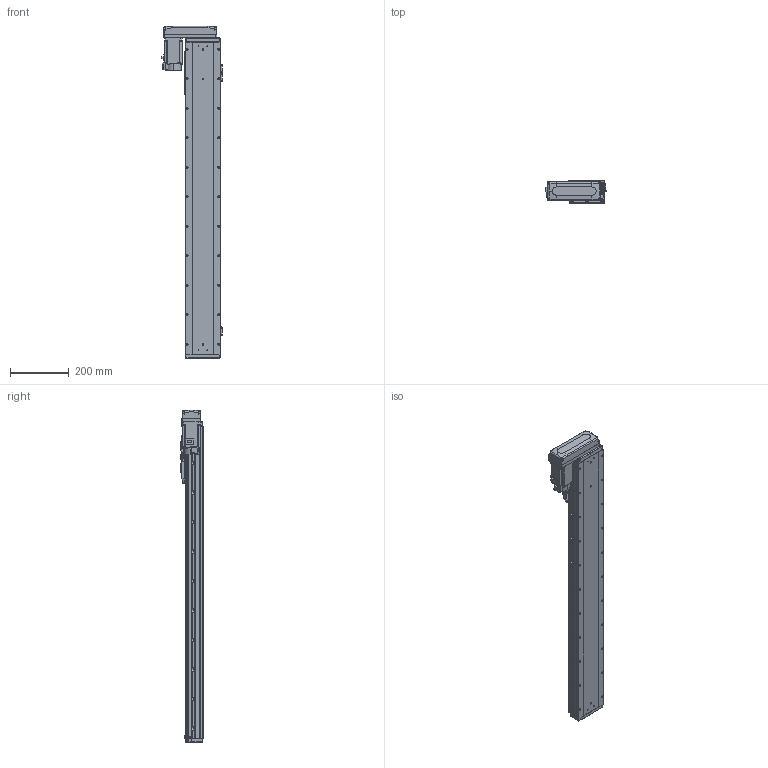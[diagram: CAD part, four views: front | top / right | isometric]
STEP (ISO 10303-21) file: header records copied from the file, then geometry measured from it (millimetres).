
FILE_DESCRIPTION (( 'STEP AP203' ), '1' );
FILE_NAME ('GTH12-850-BR-M40-C4.step', '2023-07-05T00:07:22', ( '微软用户' ), ( '微软中国' ), 'SwSTEP 2.0', 'SolidWorks 2020', '' );
FILE_SCHEMA (( 'CONFIG_CONTROL_DESIGN' ));
Length unit declared in the file: millimetre
Products named in the file (18): GTH120-001_850; GBT 70.3-M3℅8; hg-kn43j_-s100_; GTH120-003; GTH80-022; CTHA86-033_M40B; GTH120-006; GTH80-028; GTH120-027-1_GTH120-027-2; GTH120-004; GTH50-023; GTH12-850-BR-M40-C4; GTH120-013; GTH50-024; GBT 70.1-M3℅6; GBT96.1-2002 3×0.8; GBT 70.1-M5×16; BTH-M3X5X6
Assembly tree (59 placements, depth 2):
  GTH12-850-BR-M40-C4
    GTH120-001_850
    GTH120-003
    GTH120-006
    GTH120-004
    GTH120-013
    GBT 70.1-M3℅6  x14
    GBT 70.1-M5×16  x10
    GBT 70.3-M3℅8  x4
    GTH80-022
    GTH80-028  x2
    GTH50-023  x3
    GTH50-024  x3
    GBT96.1-2002 3×0.8  x6
    BTH-M3X5X6  x8
    hg-kn43j_-s100_
    CTHA86-033_M40B
    GTH120-027-1_GTH120-027-2
Bounding box: 203.5 x 76 x 1125.5 mm (x, y, z)
Volume: 8191078.1 mm3; surface area: 722602.8 mm2
Topology: 61 solids, 61 shells, 2497 faces, 5838 edges, 3583 vertices
Faces by surface type: plane 1278, cylinder 731, cone 300, torus 174, sphere 8, bspline 6
Entity records: 47248 total; most frequent: CARTESIAN_POINT 8004, DIRECTION 7842, ORIENTED_EDGE 7286, EDGE_CURVE 3643, AXIS2_PLACEMENT_3D 2742, LINE 2358, VECTOR 2358, VERTEX_POINT 2304
